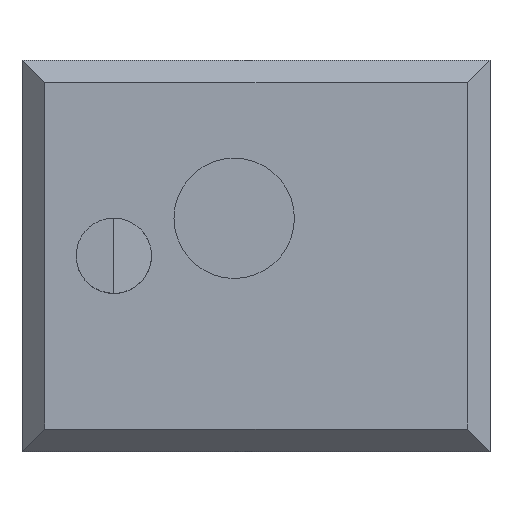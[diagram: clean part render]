
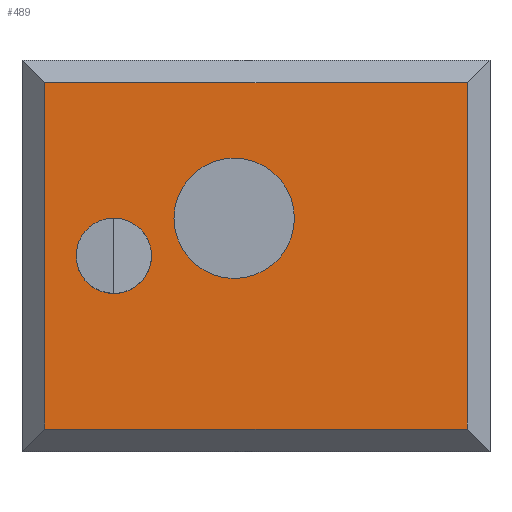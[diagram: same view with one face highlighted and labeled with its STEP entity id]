
A CAD part, top view. The second image highlights one B-rep face of the part: STEP entity #489.
In plain terms, the highlighted planar face has unit normal (0, 0, 1).
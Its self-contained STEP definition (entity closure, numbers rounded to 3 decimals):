
#20 = FACE_OUTER_BOUND ( 'NONE', #133, .T. ) ;
#24 = EDGE_LOOP ( 'NONE', ( #181, #60 ) ) ;
#28 = VECTOR ( 'NONE', #305, 1000. ) ;
#29 = ORIENTED_EDGE ( 'NONE', *, *, #205, .T. ) ;
#30 = ORIENTED_EDGE ( 'NONE', *, *, #209, .F. ) ;
#32 = LINE ( 'NONE', #287, #159 ) ;
#54 = ORIENTED_EDGE ( 'NONE', *, *, #221, .T. ) ;
#57 = VECTOR ( 'NONE', #353, 1000. ) ;
#60 = ORIENTED_EDGE ( 'NONE', *, *, #195, .F. ) ;
#71 = ORIENTED_EDGE ( 'NONE', *, *, #206, .T. ) ;
#88 = EDGE_LOOP ( 'NONE', ( #30, #183 ) ) ;
#125 = CIRCLE ( 'NONE', #253, 4. ) ;
#126 = LINE ( 'NONE', #383, #57 ) ;
#133 = EDGE_LOOP ( 'NONE', ( #71, #185, #29, #54 ) ) ;
#136 = VECTOR ( 'NONE', #267, 1000. ) ;
#139 = CIRCLE ( 'NONE', #238, 2.5 ) ;
#142 = LINE ( 'NONE', #289, #136 ) ;
#155 = LINE ( 'NONE', #465, #28 ) ;
#156 = FACE_BOUND ( 'NONE', #24, .T. ) ;
#159 = VECTOR ( 'NONE', #269, 1000. ) ;
#176 = CIRCLE ( 'NONE', #215, 4. ) ;
#180 = FACE_BOUND ( 'NONE', #88, .T. ) ;
#181 = ORIENTED_EDGE ( 'NONE', *, *, #234, .F. ) ;
#182 = CIRCLE ( 'NONE', #199, 2.5 ) ;
#183 = ORIENTED_EDGE ( 'NONE', *, *, #241, .F. ) ;
#185 = ORIENTED_EDGE ( 'NONE', *, *, #257, .T. ) ;
#195 = EDGE_CURVE ( 'NONE', #365, #398, #125, .T. ) ;
#199 = AXIS2_PLACEMENT_3D ( 'NONE', #268, #270, #273 ) ;
#205 = EDGE_CURVE ( 'NONE', #385, #308, #32, .T. ) ;
#206 = EDGE_CURVE ( 'NONE', #294, #291, #142, .T. ) ;
#209 = EDGE_CURVE ( 'NONE', #343, #346, #182, .T. ) ;
#215 = AXIS2_PLACEMENT_3D ( 'NONE', #379, #356, #412 ) ;
#221 = EDGE_CURVE ( 'NONE', #308, #294, #155, .T. ) ;
#225 = AXIS2_PLACEMENT_3D ( 'NONE', #342, #378, #424 ) ;
#234 = EDGE_CURVE ( 'NONE', #398, #365, #176, .T. ) ;
#238 = AXIS2_PLACEMENT_3D ( 'NONE', #415, #469, #277 ) ;
#241 = EDGE_CURVE ( 'NONE', #346, #343, #139, .T. ) ;
#253 = AXIS2_PLACEMENT_3D ( 'NONE', #297, #262, #276 ) ;
#257 = EDGE_CURVE ( 'NONE', #291, #385, #126, .T. ) ;
#262 = DIRECTION ( 'NONE',  ( 0., 0., 1. ) ) ;
#267 = DIRECTION ( 'NONE',  ( 1., 0., 0. ) ) ;
#268 = CARTESIAN_POINT ( 'NONE',  ( -8., 0., 2.5 ) ) ;
#269 = DIRECTION ( 'NONE',  ( -1., 0., 0. ) ) ;
#270 = DIRECTION ( 'NONE',  ( 0., 0., 1. ) ) ;
#273 = DIRECTION ( 'NONE',  ( -1., 0., 0. ) ) ;
#276 = DIRECTION ( 'NONE',  ( 1., 0., 0. ) ) ;
#277 = DIRECTION ( 'NONE',  ( -1., 0., 0. ) ) ;
#287 = CARTESIAN_POINT ( 'NONE',  ( -14.1, 11.5, 2.5 ) ) ;
#289 = CARTESIAN_POINT ( 'NONE',  ( -14.1, -11.5, 2.5 ) ) ;
#291 = VERTEX_POINT ( 'NONE', #455 ) ;
#294 = VERTEX_POINT ( 'NONE', #447 ) ;
#297 = CARTESIAN_POINT ( 'NONE',  ( 0., 2.5, 2.5 ) ) ;
#305 = DIRECTION ( 'NONE',  ( 0., -1., 0. ) ) ;
#306 = CARTESIAN_POINT ( 'NONE',  ( 4., 2.5, 2.5 ) ) ;
#308 = VERTEX_POINT ( 'NONE', #462 ) ;
#339 = CARTESIAN_POINT ( 'NONE',  ( -10.5, 0., 2.5 ) ) ;
#342 = CARTESIAN_POINT ( 'NONE',  ( -14.1, 13., 2.5 ) ) ;
#343 = VERTEX_POINT ( 'NONE', #339 ) ;
#346 = VERTEX_POINT ( 'NONE', #363 ) ;
#353 = DIRECTION ( 'NONE',  ( 0., 1., 0. ) ) ;
#356 = DIRECTION ( 'NONE',  ( 0., 0., 1. ) ) ;
#363 = CARTESIAN_POINT ( 'NONE',  ( -5.5, 0., 2.5 ) ) ;
#365 = VERTEX_POINT ( 'NONE', #366 ) ;
#366 = CARTESIAN_POINT ( 'NONE',  ( -4., 2.5, 2.5 ) ) ;
#378 = DIRECTION ( 'NONE',  ( 0., 0., -1. ) ) ;
#379 = CARTESIAN_POINT ( 'NONE',  ( 0., 2.5, 2.5 ) ) ;
#383 = CARTESIAN_POINT ( 'NONE',  ( 15.5, 13., 2.5 ) ) ;
#385 = VERTEX_POINT ( 'NONE', #397 ) ;
#397 = CARTESIAN_POINT ( 'NONE',  ( 15.5, 11.5, 2.5 ) ) ;
#398 = VERTEX_POINT ( 'NONE', #306 ) ;
#412 = DIRECTION ( 'NONE',  ( 1., 0., 0. ) ) ;
#415 = CARTESIAN_POINT ( 'NONE',  ( -8., 0., 2.5 ) ) ;
#424 = DIRECTION ( 'NONE',  ( -1., 0., 0. ) ) ;
#427 = PLANE ( 'NONE',  #225 ) ;
#447 = CARTESIAN_POINT ( 'NONE',  ( -12.6, -11.5, 2.5 ) ) ;
#455 = CARTESIAN_POINT ( 'NONE',  ( 15.5, -11.5, 2.5 ) ) ;
#462 = CARTESIAN_POINT ( 'NONE',  ( -12.6, 11.5, 2.5 ) ) ;
#465 = CARTESIAN_POINT ( 'NONE',  ( -12.6, 13., 2.5 ) ) ;
#469 = DIRECTION ( 'NONE',  ( 0., 0., 1. ) ) ;
#489 = ADVANCED_FACE ( 'NONE', ( #20, #156, #180 ), #427, .F. ) ;
